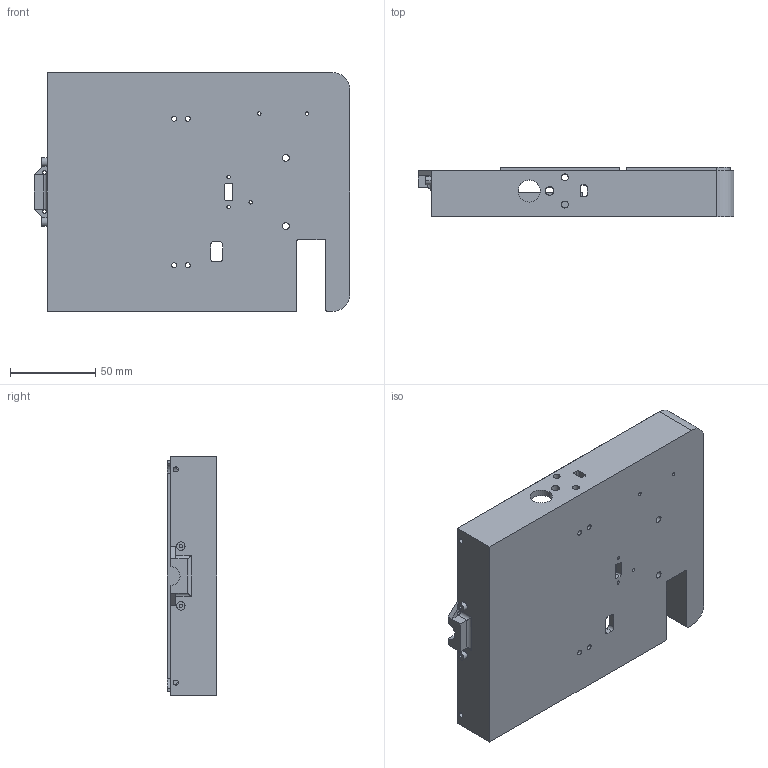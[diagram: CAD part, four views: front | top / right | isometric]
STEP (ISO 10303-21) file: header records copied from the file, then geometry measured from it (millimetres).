
FILE_DESCRIPTION (( 'STEP AP203' ), '1' );
FILE_NAME ('Bottomback.STEP', '2016-05-26T15:02:02', ( '' ), ( '' ), 'SwSTEP 2.0', 'SolidWorks 2015', '' );
FILE_SCHEMA (( 'CONFIG_CONTROL_DESIGN' ));
Length unit declared in the file: millimetre
Products named in the file (1): Bottomback
Bounding box: 185 x 29.03 x 140 mm (x, y, z)
Volume: 167515.7 mm3; surface area: 89705.9 mm2
Topology: 1 solids, 1 shells, 238 faces, 662 edges, 436 vertices
Faces by surface type: plane 126, cylinder 110, cone 2
Entity records: 7846 total; most frequent: CARTESIAN_POINT 1367, DIRECTION 1345, ORIENTED_EDGE 1324, EDGE_CURVE 662, AXIS2_PLACEMENT_3D 454, LINE 437, VECTOR 437, VERTEX_POINT 436
